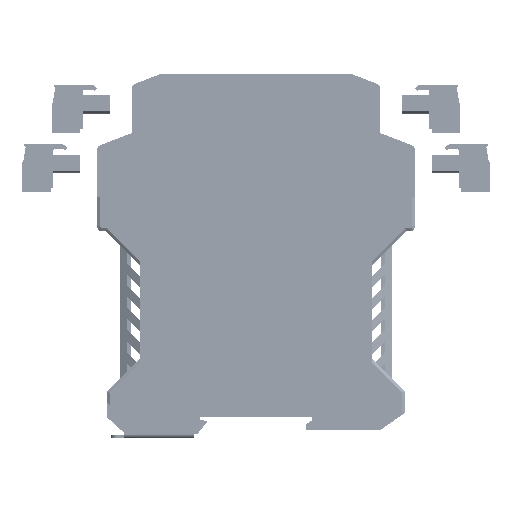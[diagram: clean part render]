
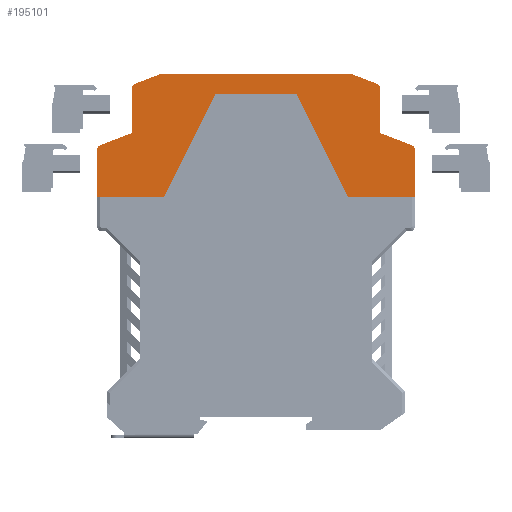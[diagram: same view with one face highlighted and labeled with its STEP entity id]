
A CAD part, left-side view. The second image highlights one B-rep face of the part: STEP entity #195101.
In plain terms, the highlighted planar face has unit normal (-1, 0, 0) as drawn and (0, 0, -1) by its records, which use the part's own axes.
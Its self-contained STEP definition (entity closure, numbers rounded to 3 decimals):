
#195101=ADVANCED_FACE('',(#359530),#359532,.T.);
#359530=FACE_BOUND('',#359531,.T.);
#359531=EDGE_LOOP('',(#491211,#491212,#491213,#491214,#491215,#491216,#491217,#491218,
#491219,#491220,#491221,#491222,#491223,#491224,#491225,#491226,#491227,#491228));
#359532=PLANE('',#359533);
#359533=AXIS2_PLACEMENT_3D('',#359534,#359535,#359536);
#359534=CARTESIAN_POINT('',(-26.857,93.967,-18.8));
#359535=DIRECTION('',(0.,0.,-1.));
#359536=DIRECTION('',(-1.,0.,0.));
#491211=ORIENTED_EDGE('',*,*,#559728,.T.);
#491212=ORIENTED_EDGE('',*,*,#559564,.T.);
#491213=ORIENTED_EDGE('',*,*,#559736,.T.);
#491214=ORIENTED_EDGE('',*,*,#559624,.F.);
#491215=ORIENTED_EDGE('',*,*,#559725,.F.);
#491216=ORIENTED_EDGE('',*,*,#559470,.F.);
#491217=ORIENTED_EDGE('',*,*,#559423,.T.);
#491218=ORIENTED_EDGE('',*,*,#559491,.T.);
#491219=ORIENTED_EDGE('',*,*,#559670,.F.);
#491220=ORIENTED_EDGE('',*,*,#559645,.T.);
#491221=ORIENTED_EDGE('',*,*,#559255,.F.);
#491222=ORIENTED_EDGE('',*,*,#559737,.F.);
#491223=ORIENTED_EDGE('',*,*,#558966,.F.);
#491224=ORIENTED_EDGE('',*,*,#559276,.F.);
#491225=ORIENTED_EDGE('',*,*,#559482,.T.);
#491226=ORIENTED_EDGE('',*,*,#559347,.F.);
#491227=ORIENTED_EDGE('',*,*,#559708,.F.);
#491228=ORIENTED_EDGE('',*,*,#559681,.T.);
#558966=EDGE_CURVE('',#663784,#663786,#663787,.T.);
#559255=EDGE_CURVE('',#664305,#664307,#664308,.T.);
#559276=EDGE_CURVE('',#664338,#663784,#664340,.T.);
#559347=EDGE_CURVE('',#664457,#664458,#664459,.T.);
#559423=EDGE_CURVE('',#664576,#664581,#664583,.T.);
#559470=EDGE_CURVE('',#664576,#664659,#664660,.T.);
#559482=EDGE_CURVE('',#664338,#664458,#664681,.T.);
#559491=EDGE_CURVE('',#664581,#664691,#664693,.T.);
#559564=EDGE_CURVE('',#664805,#664806,#664807,.T.);
#559624=EDGE_CURVE('',#664897,#664898,#664899,.T.);
#559645=EDGE_CURVE('',#664929,#664307,#664930,.T.);
#559670=EDGE_CURVE('',#664929,#664691,#664966,.T.);
#559681=EDGE_CURVE('',#664980,#664981,#664982,.T.);
#559708=EDGE_CURVE('',#664980,#664457,#665015,.T.);
#559725=EDGE_CURVE('',#664659,#664897,#665037,.T.);
#559728=EDGE_CURVE('',#664981,#664805,#665041,.T.);
#559736=EDGE_CURVE('',#664806,#664898,#665049,.T.);
#559737=EDGE_CURVE('',#663786,#664305,#665050,.T.);
#663784=VERTEX_POINT('',#909384);
#663786=VERTEX_POINT('',#909388);
#663787=LINE('',#909389,#909390);
#664305=VERTEX_POINT('',#910503);
#664307=VERTEX_POINT('',#910507);
#664308=LINE('',#910508,#910509);
#664338=VERTEX_POINT('',#910578);
#664340=LINE('',#910582,#910583);
#664457=VERTEX_POINT('',#910841);
#664458=VERTEX_POINT('',#910842);
#664459=CIRCLE('',#910843,1.5);
#664576=VERTEX_POINT('',#911108);
#664581=VERTEX_POINT('',#911117);
#664583=LINE('',#911121,#911122);
#664659=VERTEX_POINT('',#911291);
#664660=LINE('',#911292,#911293);
#664681=LINE('',#911337,#911338);
#664691=VERTEX_POINT('',#911364);
#664693=CIRCLE('',#911368,1.5);
#664805=VERTEX_POINT('',#911631);
#664806=VERTEX_POINT('',#911632);
#664807=LINE('',#911633,#911634);
#664897=VERTEX_POINT('',#911844);
#664898=VERTEX_POINT('',#911845);
#664899=LINE('',#911846,#911847);
#664929=VERTEX_POINT('',#911918);
#664930=LINE('',#911919,#911920);
#664966=LINE('',#912005,#912006);
#664980=VERTEX_POINT('',#912041);
#664981=VERTEX_POINT('',#912042);
#664982=LINE('',#912043,#912044);
#665015=LINE('',#912131,#912132);
#665037=CIRCLE('',#912188,1.5);
#665041=CIRCLE('',#912199,1.5);
#665049=LINE('',#912225,#912226);
#665050=LINE('',#912228,#912229);
#909384=CARTESIAN_POINT('',(-28.75,76.5,-18.8));
#909388=CARTESIAN_POINT('',(-12.7,108.7,-18.8));
#909389=CARTESIAN_POINT('',(-28.75,76.5,-18.8));
#909390=VECTOR('',#909391,1.);
#909391=DIRECTION('',(0.446,0.895,0.));
#910503=CARTESIAN_POINT('',(12.7,108.7,-18.8));
#910507=CARTESIAN_POINT('',(28.75,76.5,-18.8));
#910508=CARTESIAN_POINT('',(12.7,108.7,-18.8));
#910509=VECTOR('',#910510,1.);
#910510=DIRECTION('',(0.446,-0.895,0.));
#910578=CARTESIAN_POINT('',(-49.5,76.5,-18.8));
#910582=CARTESIAN_POINT('',(-49.5,76.5,-18.8));
#910583=VECTOR('',#910584,1.);
#910584=DIRECTION('',(1.,0.,0.));
#910841=CARTESIAN_POINT('',(-48.537,92.769,-18.8));
#910842=CARTESIAN_POINT('',(-49.5,91.368,-18.8));
#910843=AXIS2_PLACEMENT_3D('',#910844,#910845,#910846);
#910844=CARTESIAN_POINT('',(-48.,91.368,-18.8));
#910845=DIRECTION('',(0.,0.,1.));
#910846=DIRECTION('',(-0.358,0.934,0.));
#911108=CARTESIAN_POINT('',(38.8,96.5,-18.8));
#911117=CARTESIAN_POINT('',(48.537,92.769,-18.8));
#911121=CARTESIAN_POINT('',(38.8,96.5,-18.8));
#911122=VECTOR('',#911123,1.);
#911123=DIRECTION('',(0.934,-0.358,0.));
#911291=CARTESIAN_POINT('',(38.8,110.438,-18.8));
#911292=CARTESIAN_POINT('',(38.8,96.5,-18.8));
#911293=VECTOR('',#911294,1.);
#911294=DIRECTION('',(0.,1.,0.));
#911337=CARTESIAN_POINT('',(-49.5,76.5,-18.8));
#911338=VECTOR('',#911339,1.);
#911339=DIRECTION('',(0.,1.,0.));
#911364=CARTESIAN_POINT('',(49.5,91.368,-18.8));
#911368=AXIS2_PLACEMENT_3D('',#911369,#911370,#911371);
#911369=CARTESIAN_POINT('',(48.,91.368,-18.8));
#911370=DIRECTION('',(0.,0.,-1.));
#911371=DIRECTION('',(0.358,0.934,0.));
#911631=CARTESIAN_POINT('',(-37.838,111.838,-18.8));
#911632=CARTESIAN_POINT('',(-29.6,115.,-18.8));
#911633=CARTESIAN_POINT('',(-37.838,111.838,-18.8));
#911634=VECTOR('',#911635,1.);
#911635=DIRECTION('',(0.934,0.358,0.));
#911844=CARTESIAN_POINT('',(37.838,111.838,-18.8));
#911845=CARTESIAN_POINT('',(29.6,115.,-18.8));
#911846=CARTESIAN_POINT('',(37.838,111.838,-18.8));
#911847=VECTOR('',#911848,1.);
#911848=DIRECTION('',(-0.934,0.358,0.));
#911918=CARTESIAN_POINT('',(49.5,76.5,-18.8));
#911919=CARTESIAN_POINT('',(49.5,76.5,-18.8));
#911920=VECTOR('',#911921,1.);
#911921=DIRECTION('',(-1.,0.,0.));
#912005=CARTESIAN_POINT('',(49.5,76.5,-18.8));
#912006=VECTOR('',#912007,1.);
#912007=DIRECTION('',(0.,1.,0.));
#912041=CARTESIAN_POINT('',(-38.8,96.5,-18.8));
#912042=CARTESIAN_POINT('',(-38.8,110.438,-18.8));
#912043=CARTESIAN_POINT('',(-38.8,96.5,-18.8));
#912044=VECTOR('',#912045,1.);
#912045=DIRECTION('',(0.,1.,0.));
#912131=CARTESIAN_POINT('',(-38.8,96.5,-18.8));
#912132=VECTOR('',#912133,1.);
#912133=DIRECTION('',(-0.934,-0.358,0.));
#912188=AXIS2_PLACEMENT_3D('',#912189,#912190,#912191);
#912189=CARTESIAN_POINT('',(37.3,110.438,-18.8));
#912190=DIRECTION('',(0.,-0.,1.));
#912191=DIRECTION('',(1.,0.,0.));
#912199=AXIS2_PLACEMENT_3D('',#912200,#912201,#912202);
#912200=CARTESIAN_POINT('',(-37.3,110.438,-18.8));
#912201=DIRECTION('',(0.,0.,-1.));
#912202=DIRECTION('',(-1.,0.,0.));
#912225=CARTESIAN_POINT('',(-29.6,115.,-18.8));
#912226=VECTOR('',#912227,1.);
#912227=DIRECTION('',(1.,0.,0.));
#912228=CARTESIAN_POINT('',(-12.7,108.7,-18.8));
#912229=VECTOR('',#912230,1.);
#912230=DIRECTION('',(1.,0.,0.));
